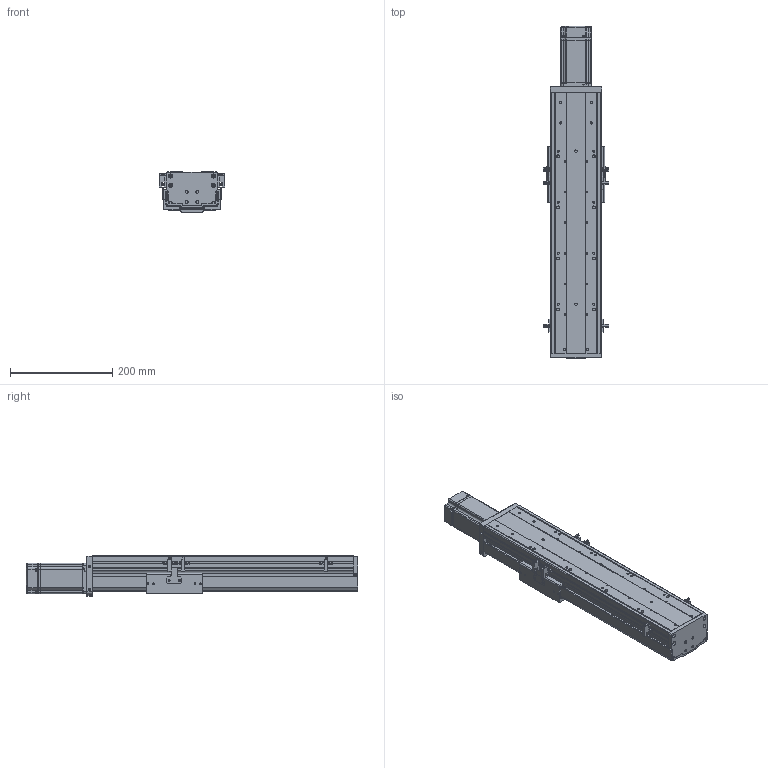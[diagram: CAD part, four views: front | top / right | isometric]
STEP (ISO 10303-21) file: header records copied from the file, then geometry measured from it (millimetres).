
FILE_DESCRIPTION (( 'STEP AP203' ), '1' );
FILE_NAME ('RY100FBS-L1610-300-MK(15双轨）.SLDASM_250.step', '2021-02-22T08:44:07', ( '盈信电脑' ), ( '东莞市道滘镇水果街19号' ), 'SwSTEP 2.0', 'SolidWorks 2012', '' );
FILE_SCHEMA (( 'CONFIG_CONTROL_DESIGN' ));
Length unit declared in the file: millimetre
Products named in the file (12): 侂狟400W侜督萇儂; RY100FBS-L1610-300-MK(15双轨）.SLDASM_250; 覜茼ん672; RY100FB-遵嫖萇覜茼え; RY100FBS-300-上盖板(15双轨）_250; 15; RY100FBS-后盖板(15双轨）; RY100FBS-前盖板(15双轨）; 滅袉蝶18-15; RY100FBS-铝滑块（16丝杆）; 滅袉蝶18-24; RY100FBS-300型材底座(15双轨）_250
Assembly tree (18 placements, depth 3):
  RY100FBS-L1610-300-MK(15双轨）.SLDASM_250
    RY100FBS-300型材底座(15双轨）_250
    滅袉蝶18-24  x2
    滅袉蝶18-15
    RY100FBS-铝滑块（16丝杆）
    RY100FBS-300-上盖板(15双轨）_250
    RY100FBS-前盖板(15双轨）
    RY100FBS-后盖板(15双轨）
    侂狟400W侜督萇儂
      15
    RY100FB-遵嫖萇覜茼え  x2
    覜茼ん672  x6
Bounding box: 127.4 x 650.5 x 78.75 mm (x, y, z)
Volume: 1743399.7 mm3; surface area: 567493.2 mm2
Topology: 17 solids, 17 shells, 1697 faces, 4777 edges, 3128 vertices
Faces by surface type: plane 857, cylinder 708, cone 114, bspline 18
Entity records: 43710 total; most frequent: CARTESIAN_POINT 9147, DIRECTION 7024, ORIENTED_EDGE 6898, EDGE_CURVE 3449, AXIS2_PLACEMENT_3D 2515, VERTEX_POINT 2276, LINE 1994, VECTOR 1994
